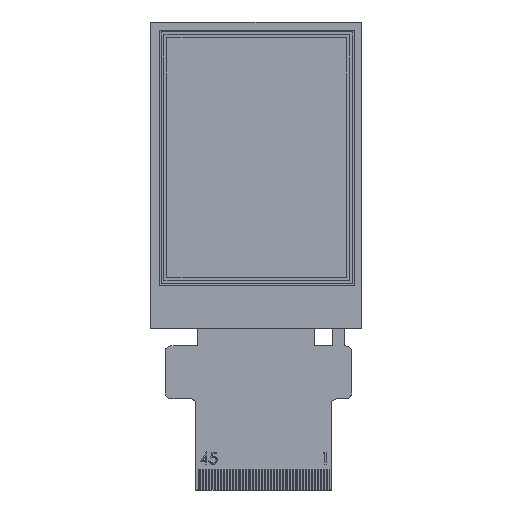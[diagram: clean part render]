
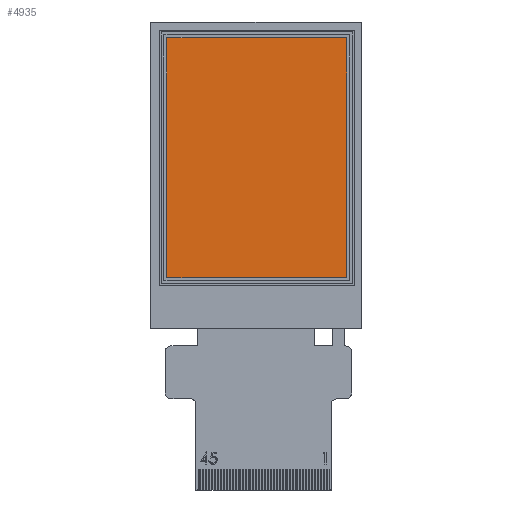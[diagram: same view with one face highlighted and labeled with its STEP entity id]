
A CAD part, top view. The second image highlights one B-rep face of the part: STEP entity #4935.
In plain terms, the highlighted planar face has unit normal (0, 0, 1).
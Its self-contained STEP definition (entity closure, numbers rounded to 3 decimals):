
#82 = LINE ( 'NONE', #2767, #6677 ) ;
#312 = LINE ( 'NONE', #1670, #5377 ) ;
#341 = DIRECTION ( 'NONE',  ( 0., -1., 0. ) ) ;
#601 = EDGE_CURVE ( 'NONE', #2304, #2804, #997, .T. ) ;
#893 = FACE_OUTER_BOUND ( 'NONE', #1039, .T. ) ;
#997 = LINE ( 'NONE', #3107, #7703 ) ;
#1000 = EDGE_CURVE ( 'NONE', #2804, #2174, #312, .T. ) ;
#1039 = EDGE_LOOP ( 'NONE', ( #8268, #4708, #4072, #1987 ) ) ;
#1670 = CARTESIAN_POINT ( 'NONE',  ( 2.75, 0., 2.65 ) ) ;
#1987 = ORIENTED_EDGE ( 'NONE', *, *, #2759, .F. ) ;
#2174 = VERTEX_POINT ( 'NONE', #5051 ) ;
#2304 = VERTEX_POINT ( 'NONE', #3974 ) ;
#2759 = EDGE_CURVE ( 'NONE', #2174, #6826, #82, .T. ) ;
#2767 = CARTESIAN_POINT ( 'NONE',  ( 0., -2.7, 2.65 ) ) ;
#2804 = VERTEX_POINT ( 'NONE', #8191 ) ;
#2999 = DIRECTION ( 'NONE',  ( 0., 1., 0. ) ) ;
#3107 = CARTESIAN_POINT ( 'NONE',  ( 0., -43.5, 2.65 ) ) ;
#3115 = LINE ( 'NONE', #3769, #4584 ) ;
#3745 = CARTESIAN_POINT ( 'NONE',  ( 0., 0., 2.65 ) ) ;
#3769 = CARTESIAN_POINT ( 'NONE',  ( 33.35, 0., 2.65 ) ) ;
#3974 = CARTESIAN_POINT ( 'NONE',  ( 33.35, -43.5, 2.65 ) ) ;
#4072 = ORIENTED_EDGE ( 'NONE', *, *, #8637, .F. ) ;
#4584 = VECTOR ( 'NONE', #341, 1000. ) ;
#4708 = ORIENTED_EDGE ( 'NONE', *, *, #601, .F. ) ;
#4935 = ADVANCED_FACE ( 'NONE', ( #893 ), #6968, .T. ) ;
#5051 = CARTESIAN_POINT ( 'NONE',  ( 2.75, -2.7, 2.65 ) ) ;
#5377 = VECTOR ( 'NONE', #2999, 1000. ) ;
#5466 = DIRECTION ( 'NONE',  ( 1., 0., 0. ) ) ;
#5607 = DIRECTION ( 'NONE',  ( 0., 0., 1. ) ) ;
#5757 = DIRECTION ( 'NONE',  ( -1., 0., 0. ) ) ;
#6677 = VECTOR ( 'NONE', #5466, 1000. ) ;
#6826 = VERTEX_POINT ( 'NONE', #8609 ) ;
#6968 = PLANE ( 'NONE',  #7575 ) ;
#7575 = AXIS2_PLACEMENT_3D ( 'NONE', #3745, #5607, #8421 ) ;
#7703 = VECTOR ( 'NONE', #5757, 1000. ) ;
#8191 = CARTESIAN_POINT ( 'NONE',  ( 2.75, -43.5, 2.65 ) ) ;
#8268 = ORIENTED_EDGE ( 'NONE', *, *, #1000, .F. ) ;
#8421 = DIRECTION ( 'NONE',  ( 1., 0., 0. ) ) ;
#8609 = CARTESIAN_POINT ( 'NONE',  ( 33.35, -2.7, 2.65 ) ) ;
#8637 = EDGE_CURVE ( 'NONE', #6826, #2304, #3115, .T. ) ;
